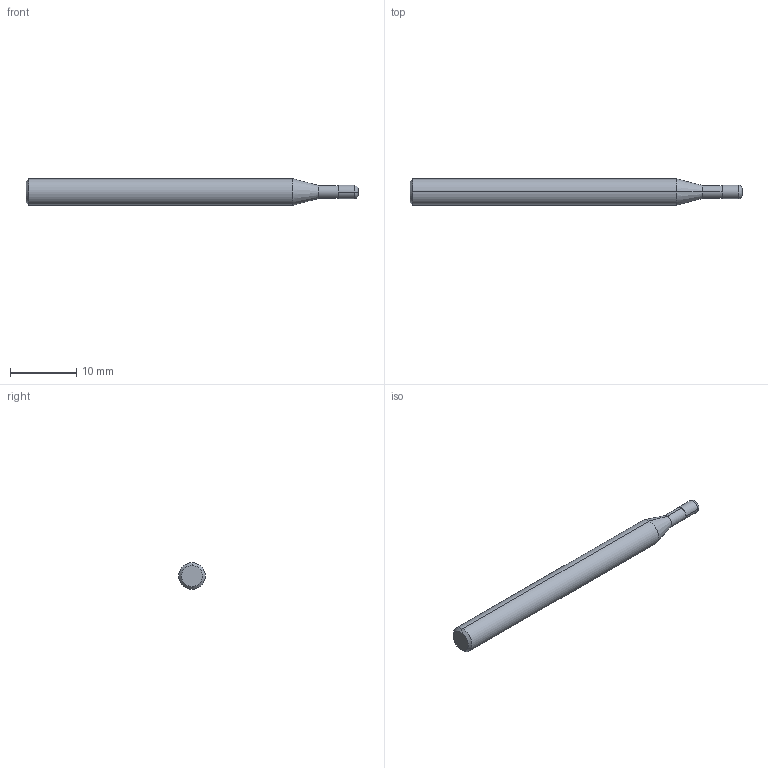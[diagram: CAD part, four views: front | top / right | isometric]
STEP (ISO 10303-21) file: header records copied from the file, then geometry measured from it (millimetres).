
FILE_DESCRIPTION (( 'STEP AP214' ), '1' );
FILE_NAME ('SEME610200506E.STEP', '2018-03-30T00:17:02', ( '' ), ( '' ), 'SwSTEP 2.0', 'SolidWorks 2014', '' );
FILE_SCHEMA (( 'AUTOMOTIVE_DESIGN' ));
Length unit declared in the file: millimetre
Products named in the file (1): SEME610200506E
Bounding box: 50 x 4 x 4 mm (x, y, z)
Volume: 549.6 mm3; surface area: 596.3 mm2
Topology: 2 solids, 2 shells, 16 faces, 28 edges, 16 vertices
Faces by surface type: cylinder 6, cone 4, plane 4, torus 2
Entity records: 429 total; most frequent: DIRECTION 80, CARTESIAN_POINT 61, ORIENTED_EDGE 56, AXIS2_PLACEMENT_3D 35, EDGE_CURVE 28, CIRCLE 18, ADVANCED_FACE 16, VERTEX_POINT 16
